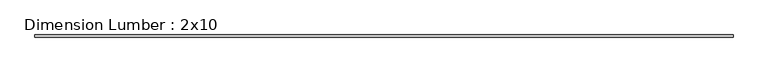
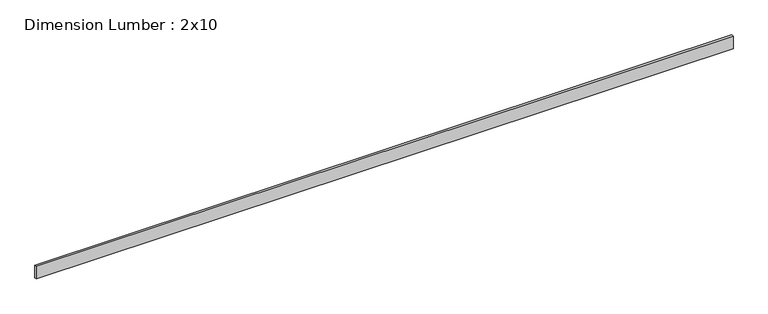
"""IFC4 building model written with IfcOpenShell, lengths in millimetres: beam geometry, Dimension Lumber : 2x10."""

import ifcopenshell
import ifcopenshell.guid

model = None  # the IFC model being written
_history = None  # IfcOwnerHistory: only IFC2X3 demands one
_inside = {}  # id of a spatial element -> (the spatial element, [elements in it])
_under = {}  # id of a project, library or spatial element -> (it, [spatial elements below it])
_declared = {}  # id of a project -> (the project, [libraries it declares])
_typed = {}  # id of a type object -> (the type object, [elements of that type])
_made_of = {}  # id of a material, layer set ... -> (it, [elements and type objects made of it])


def new_model(schema):
    """Start an empty IFC model of exactly this schema.

    Asked for "IFC4X3", IfcOpenShell would pick the latest addendum, in which some entities
    have other attributes; the version numbers below select the first issue.
    IFC2X3 requires an IfcOwnerHistory on every rooted entity: one is made here for all.
    """
    global model, _history
    if schema == "IFC4X3":
        model = ifcopenshell.file(schema_version=(4, 3, 0, 0))
    else:
        model = ifcopenshell.file(schema=schema)
    _inside.clear()
    _under.clear()
    _declared.clear()
    _typed.clear()
    _made_of.clear()
    _history = None
    if model.schema == "IFC2X3":
        org = make("IfcOrganization", Name="unknown")
        user = make(
            "IfcPersonAndOrganization",
            ThePerson=make("IfcPerson", FamilyName="unknown"),
            TheOrganization=org,
        )
        app = make(
            "IfcApplication",
            ApplicationDeveloper=org,
            Version="unknown",
            ApplicationFullName="unknown",
            ApplicationIdentifier="unknown",
        )
        _history = make(
            "IfcOwnerHistory",
            OwningUser=user,
            OwningApplication=app,
            ChangeAction="ADDED",
            CreationDate=0,
        )
    return model


def make(cls, **values):
    """One entity of the class cls with the attributes given. An attribute that is None is left unset."""
    return model.create_entity(
        cls, **{name: value for name, value in values.items() if value is not None}
    )


def rooted(cls, **values):
    """An entity with a GlobalId (a new one), such as an element, a storey or a relation."""
    return make(cls, GlobalId=ifcopenshell.guid.new(), OwnerHistory=_history, **values)


def si_unit(unit_type, name, prefix=None):
    """IfcSIUnit, for example si_unit("LENGTHUNIT", "METRE", prefix="MILLI")."""
    return make("IfcSIUnit", UnitType=unit_type, Prefix=prefix, Name=name)


def assignment(units):
    """IfcUnitAssignment: the units of a project."""
    return None if units is None else make("IfcUnitAssignment", Units=units)


def point(xyz):
    """IfcCartesianPoint."""
    return None if xyz is None else make("IfcCartesianPoint", Coordinates=xyz)


def direction(xyz):
    """IfcDirection."""
    return None if xyz is None else make("IfcDirection", DirectionRatios=xyz)


def frame(location, z_axis=None, x_axis=None):
    """IfcAxis2Placement3D, a coordinate frame: its origin and axes. An axis left out is left unset."""
    return make(
        "IfcAxis2Placement3D",
        Location=point(location),
        Axis=direction(z_axis),
        RefDirection=direction(x_axis),
    )


def origin():
    """The frame at (0, 0, 0) with its axes left unset."""
    return frame((0.0, 0.0, 0.0))


def place(relative_to, where):
    """IfcLocalPlacement: puts the frame where relative to a parent placement (None: the world)."""
    return make(
        "IfcLocalPlacement", PlacementRelTo=relative_to, RelativePlacement=where
    )


def context(
    kind, dimensions, precision=None, world=None, true_north=None, identifier=None
):
    """IfcGeometricRepresentationContext, for example the 3D "Model" context."""
    return make(
        "IfcGeometricRepresentationContext",
        ContextIdentifier=identifier,
        ContextType=kind,
        CoordinateSpaceDimension=dimensions,
        Precision=precision,
        WorldCoordinateSystem=world,
        TrueNorth=true_north,
    )


def project(units=None, contexts=None):
    """IfcProject with its units and contexts."""
    return rooted(
        "IfcProject",
        Name="project",
        RepresentationContexts=contexts,
        UnitsInContext=assignment(units),
    )


def spatial(cls, under=None, at=None, **own):
    """A site, building, storey or space (cls), placed at a placement, below another one or the project."""
    s = rooted(cls, ObjectPlacement=at, **own)
    if under is not None:
        _under.setdefault(under.id(), (under, []))[1].append(s)
    return s


def polyline(points):
    """IfcPolyline through the points."""
    return make("IfcPolyline", Points=[point(p) for p in points])


def outline(outer, holes=None, kind="AREA"):
    """IfcArbitraryClosedProfileDef: a profile drawn as a closed curve; with holes, ...WithVoids."""
    if holes is None:
        return make("IfcArbitraryClosedProfileDef", ProfileType=kind, OuterCurve=outer)
    return make(
        "IfcArbitraryProfileDefWithVoids",
        ProfileType=kind,
        OuterCurve=outer,
        InnerCurves=holes,
    )


def extrude(swept, where, along, depth):
    """IfcExtrudedAreaSolid: the profile swept, set in the frame where, extruded along a direction by depth."""
    return make(
        "IfcExtrudedAreaSolid",
        SweptArea=swept,
        Position=where,
        ExtrudedDirection=direction(along),
        Depth=depth,
    )


def shape(context_of_items, identifier, shape_type, items):
    """IfcShapeRepresentation: the items that make up one representation, for example the "Body"."""
    return make(
        "IfcShapeRepresentation",
        ContextOfItems=context_of_items,
        RepresentationIdentifier=identifier,
        RepresentationType=shape_type,
        Items=items,
    )


def source(mapping_origin, context_of_items, identifier, shape_type, items):
    """IfcRepresentationMap: a shape defined once, which mapped items show again and again."""
    return make(
        "IfcRepresentationMap",
        MappingOrigin=mapping_origin,
        MappedRepresentation=shape(context_of_items, identifier, shape_type, items),
    )


def transform(
    local_origin,
    x_axis=None,
    y_axis=None,
    z_axis=None,
    scale=None,
    scale2=None,
    scale3=None,
    uniform=True,
):
    """IfcCartesianTransformationOperator3D, or its non-uniform kind. x_axis, y_axis, z_axis: its Axis1, 2, 3."""
    if uniform:
        return make(
            "IfcCartesianTransformationOperator3D",
            Axis1=direction(x_axis),
            Axis2=direction(y_axis),
            LocalOrigin=point(local_origin),
            Scale=scale,
            Axis3=direction(z_axis),
        )
    return make(
        "IfcCartesianTransformationOperator3DnonUniform",
        Axis1=direction(x_axis),
        Axis2=direction(y_axis),
        LocalOrigin=point(local_origin),
        Scale=scale,
        Axis3=direction(z_axis),
        Scale2=scale2,
        Scale3=scale3,
    )


def mapped(mapping_source, mapping_target):
    """IfcMappedItem: shows the shape of a source again, moved by a transform."""
    return make(
        "IfcMappedItem", MappingSource=mapping_source, MappingTarget=mapping_target
    )


def made_of(thing, what):
    """Note that an element or type object is made of a material, layer set ...; save() writes the relation."""
    if what is not None:
        _made_of.setdefault(what.id(), (what, []))[1].append(thing)
    return thing


def element(
    cls,
    number,
    at=None,
    inside=None,
    cuts=None,
    type_object=None,
    material=None,
    context=None,
    identifier="Body",
    shape_type=None,
    held_by="IfcProductDefinitionShape",
    body=None,
    shapes=None,
    **own,
):
    """One element of the class cls, such as IfcWall. Its Tag is "e" and its number.

    at: its placement. inside: the storey or other place that contains it. cuts: it is an
    opening in that element (IfcRelVoidsElement). A single representation is given by context,
    identifier, shape_type and body (its items); several are given by shapes. held_by: the class
    of the entity that holds the representations. save() writes the other relations.
    """
    e = rooted(cls, Tag="e%d" % number, ObjectPlacement=at, **own)
    if body is not None:
        shapes = [shape(context, identifier, shape_type, body)]
    if shapes is not None:
        e.Representation = make(held_by, Representations=shapes)
    if inside is not None:
        _inside.setdefault(inside.id(), (inside, []))[1].append(e)
    if cuts is not None:
        rooted(
            "IfcRelVoidsElement", RelatingBuildingElement=cuts, RelatedOpeningElement=e
        )
    if type_object is not None:
        _typed.setdefault(type_object.id(), (type_object, []))[1].append(e)
    return made_of(e, material)


def aggregate(whole, parts):
    """IfcRelAggregates: a whole, such as a stair, and the parts it consists of."""
    return rooted("IfcRelAggregates", RelatingObject=whole, RelatedObjects=parts)


def save(model, path):
    """Write the relations noted so far, then the file.

    IfcRelAggregates (storeys below a building ...), IfcRelContainedInSpatialStructure (elements
    in a storey), IfcRelDefinesByType, IfcRelAssociatesMaterial and IfcRelDeclares: one each for
    every whole, place, type object, material and project.
    """
    for whole, parts in _under.values():
        aggregate(whole, parts)
    for where, things in _inside.values():
        rooted(
            "IfcRelContainedInSpatialStructure",
            RelatedElements=things,
            RelatingStructure=where,
        )
    for kind, things in _typed.values():
        rooted("IfcRelDefinesByType", RelatedObjects=things, RelatingType=kind)
    for what, things in _made_of.values():
        rooted("IfcRelAssociatesMaterial", RelatedObjects=things, RelatingMaterial=what)
    for by, libraries in _declared.values():
        rooted("IfcRelDeclares", RelatingContext=by, RelatedDefinitions=libraries)
    model.write(path)


def dimension_lumber_2x10_0c370c37(model_context):
    return source(origin(), model_context, "Body", "SweptSolid", [
        extrude(outline(polyline([(8782.0362128, -19.05), (-3635.0121501, -19.05), (-3635.0121501, 19.05), (8782.0362128, 19.05), (8782.0362128, -19.05)])), frame((0.0, 0.0, -117.475), z_axis=(0.0, 0.0, 1.0), x_axis=(1.0, 0.0, 0.0)), (0.0, 0.0, 1.0), 234.95),
    ])


if __name__ == "__main__":
    model = new_model("IFC4")
    model_context = context("Model", 3, world=origin())
    ifc_project = project(units=[si_unit("LENGTHUNIT", "METRE", prefix="MILLI")], contexts=[model_context])
    site = spatial("IfcSite", under=ifc_project)
    building = spatial("IfcBuilding", under=site)
    placement = place(None, origin())
    dimension_lumber_2x10_shape = dimension_lumber_2x10_0c370c37(model_context)
    element("IfcBeam", 1, ObjectType="Dimension Lumber : 2x10", at=placement, inside=building, context=model_context, shape_type="MappedRepresentation", body=[
        mapped(dimension_lumber_2x10_shape, transform((0.0, 0.0, 0.0), x_axis=(1.0, 0.0, 0.0), y_axis=(0.0, 1.0, 0.0), z_axis=(0.0, 0.0, 1.0))),
    ])
    save(model, "model.ifc")
